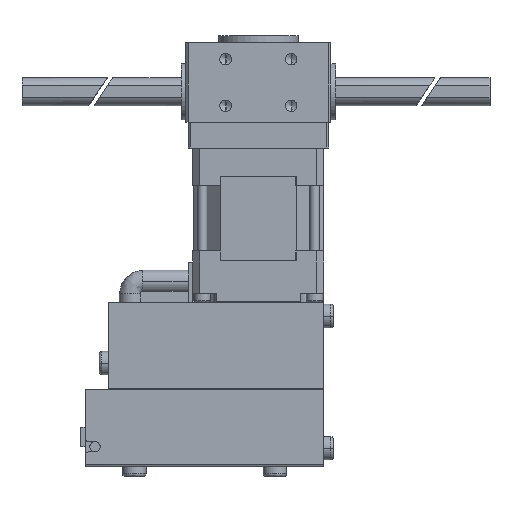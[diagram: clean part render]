
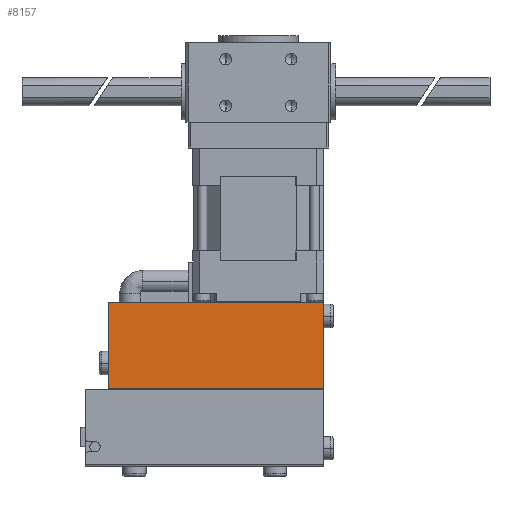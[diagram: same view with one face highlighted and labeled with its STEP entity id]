
A CAD part, front view. The second image highlights one B-rep face of the part: STEP entity #8157.
In plain terms, the highlighted planar face has unit normal (0, -1, 0) as drawn and (1, 0, 0) by its records, which use the part's own axes.
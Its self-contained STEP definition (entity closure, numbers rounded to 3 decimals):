
#1231 = EDGE_LOOP ( 'NONE', ( #1361, #1362, #1363, #1364 ) ) ;
#1361 = ORIENTED_EDGE ( 'NONE', *, *, #2844, .T. ) ;
#1362 = ORIENTED_EDGE ( 'NONE', *, *, #2837, .T. ) ;
#1363 = ORIENTED_EDGE ( 'NONE', *, *, #2839, .T. ) ;
#1364 = ORIENTED_EDGE ( 'NONE', *, *, #2846, .F. ) ;
#2837 = EDGE_CURVE ( 'NONE', #3518, #3517, #7345, .T. ) ;
#2839 = EDGE_CURVE ( 'NONE', #3517, #3519, #7349, .T. ) ;
#2844 = EDGE_CURVE ( 'NONE', #3522, #3518, #7359, .T. ) ;
#2846 = EDGE_CURVE ( 'NONE', #3522, #3519, #7363, .T. ) ;
#3517 = VERTEX_POINT ( 'NONE', #10708 ) ;
#3518 = VERTEX_POINT ( 'NONE', #10709 ) ;
#3519 = VERTEX_POINT ( 'NONE', #10710 ) ;
#3522 = VERTEX_POINT ( 'NONE', #10713 ) ;
#7345 = LINE ( 'NONE', #9802, #7346 ) ;
#7346 = VECTOR ( 'NONE', #9803, 1000. ) ;
#7349 = LINE ( 'NONE', #9806, #7350 ) ;
#7350 = VECTOR ( 'NONE', #9807, 1000. ) ;
#7359 = LINE ( 'NONE', #9816, #7360 ) ;
#7360 = VECTOR ( 'NONE', #9817, 1000. ) ;
#7363 = LINE ( 'NONE', #9820, #7364 ) ;
#7364 = VECTOR ( 'NONE', #9821, 1000. ) ;
#8157 = ADVANCED_FACE ( 'NONE', ( #12166 ), #14068, .T. ) ;
#8463 = AXIS2_PLACEMENT_3D ( 'NONE', #14069, #14070, #14071 ) ;
#9802 = CARTESIAN_POINT ( 'NONE',  ( 14., 33., -32. ) ) ;
#9803 = DIRECTION ( 'NONE',  ( 0., 0., -1. ) ) ;
#9806 = CARTESIAN_POINT ( 'NONE',  ( 14., 51.55, -32. ) ) ;
#9807 = DIRECTION ( 'NONE',  ( 0., 1., 0. ) ) ;
#9816 = CARTESIAN_POINT ( 'NONE',  ( 14., 51.55, 14. ) ) ;
#9817 = DIRECTION ( 'NONE',  ( 0., -1., 0. ) ) ;
#9820 = CARTESIAN_POINT ( 'NONE',  ( 14., 51.45, -32. ) ) ;
#9821 = DIRECTION ( 'NONE',  ( 0., 0., -1. ) ) ;
#10708 = CARTESIAN_POINT ( 'NONE',  ( 14., 33., -32. ) ) ;
#10709 = CARTESIAN_POINT ( 'NONE',  ( 14., 33., 14. ) ) ;
#10710 = CARTESIAN_POINT ( 'NONE',  ( 14., 51.45, -32. ) ) ;
#10713 = CARTESIAN_POINT ( 'NONE',  ( 14., 51.45, 14. ) ) ;
#12166 = FACE_OUTER_BOUND ( 'NONE', #1231, .T. ) ;
#14068 = PLANE ( 'NONE',  #8463 ) ;
#14069 = CARTESIAN_POINT ( 'NONE',  ( 14., 51.55, -32. ) ) ;
#14070 = DIRECTION ( 'NONE',  ( 1., 0., 0. ) ) ;
#14071 = DIRECTION ( 'NONE',  ( 0., 0., -1. ) ) ;
